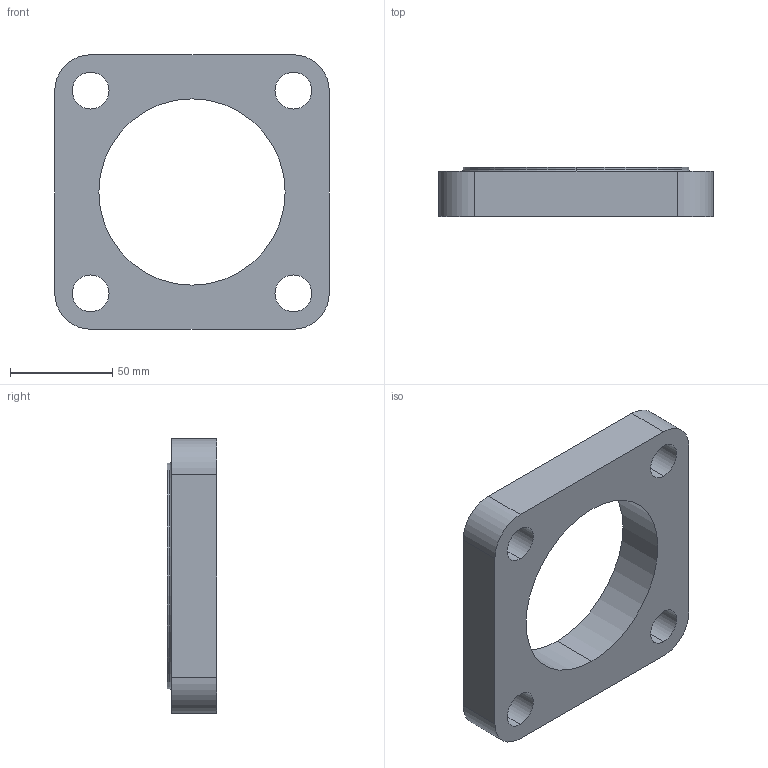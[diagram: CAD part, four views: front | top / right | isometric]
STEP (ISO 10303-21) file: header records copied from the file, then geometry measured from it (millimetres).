
FILE_DESCRIPTION (( 'STEP AP203' ), '1' );
FILE_NAME ('2吋半法蘭.STEP', '2014-04-17T00:36:12', ( 'jameswang' ), ( '' ), 'SwSTEP 2.0', 'SolidWorks 2013', '' );
FILE_SCHEMA (( 'CONFIG_CONTROL_DESIGN' ));
Length unit declared in the file: centimetre
Products named in the file (1): 2吋半法蘭
Bounding box: 134 x 24 x 134 mm (x, y, z)
Volume: 229843.1 mm3; surface area: 43854.5 mm2
Topology: 1 solids, 1 shells, 25 faces, 64 edges, 42 vertices
Faces by surface type: cylinder 16, plane 7, torus 2
Entity records: 875 total; most frequent: DIRECTION 152, CARTESIAN_POINT 132, ORIENTED_EDGE 128, EDGE_CURVE 64, AXIS2_PLACEMENT_3D 62, VERTEX_POINT 42, CIRCLE 36, EDGE_LOOP 36
